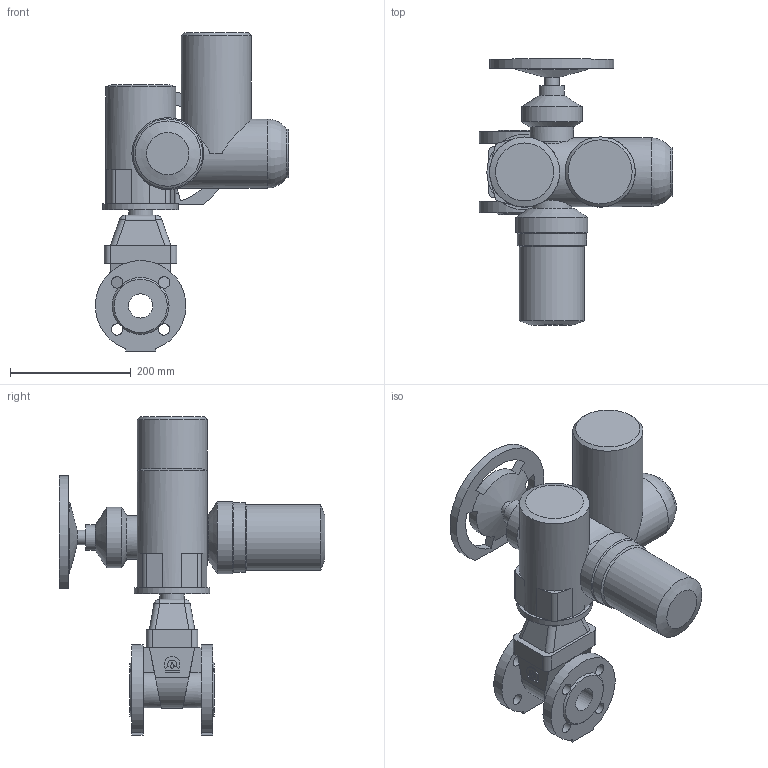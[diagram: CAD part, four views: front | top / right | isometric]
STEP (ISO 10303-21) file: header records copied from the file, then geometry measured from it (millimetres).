
FILE_DESCRIPTION(('STEP AP203'), '1');
FILE_NAME('青溻桄赅 47GVA DN40 PN10_PN16+MT903.A07', '', ('UNSPECIFIED'), ('UNSPECIFIED'), 'ASCON STEP Converter 1.6', 'ASCON Math Kernel', '');
FILE_SCHEMA(('CONFIG_CONTROL_DESIGN'));
Length unit declared in the file: millimetre
Bounding box: 319.93 x 440 x 527 mm (x, y, z)
Volume: 10189767.8 mm3; surface area: 599866.4 mm2
Topology: 2 solids, 2 shells, 186 faces, 483 edges, 308 vertices
Faces by surface type: plane 94, cylinder 76, cone 11, bspline 4, torus 1
Full cylindrical faces by diameter (mm): 8.5 x4, 12 x4, 18 x1, 19 x8, 24 x1, 40 x2, 42 x1, 66 x1, 70 x2, 72 x1, 80 x1, 100 x1, 108 x1, 114 x1, 115 x1, 116 x2, 119 x1, 125 x1
Entity records: 9235 total; most frequent: CARTESIAN_POINT 3269, DIRECTION 920, ORIENTED_EDGE 864, EDGE_CURVE 432, AXIS2_PLACEMENT_3D 354, VERTEX_POINT 308, EDGE_LOOP 276, LINE 212
